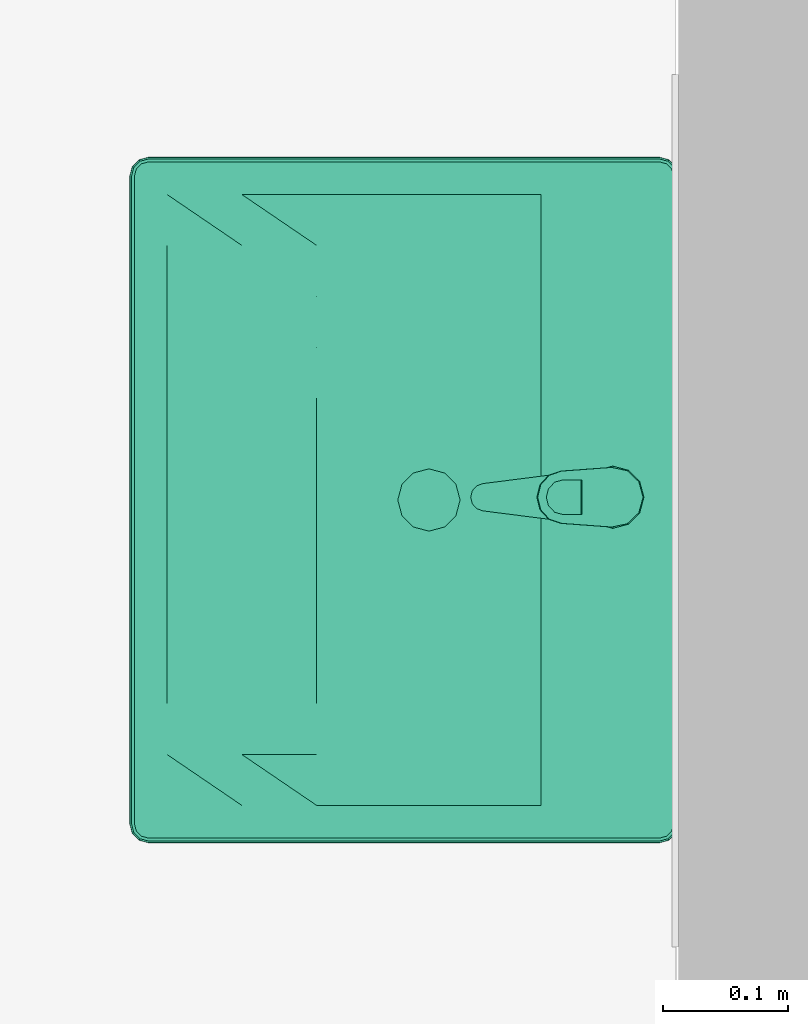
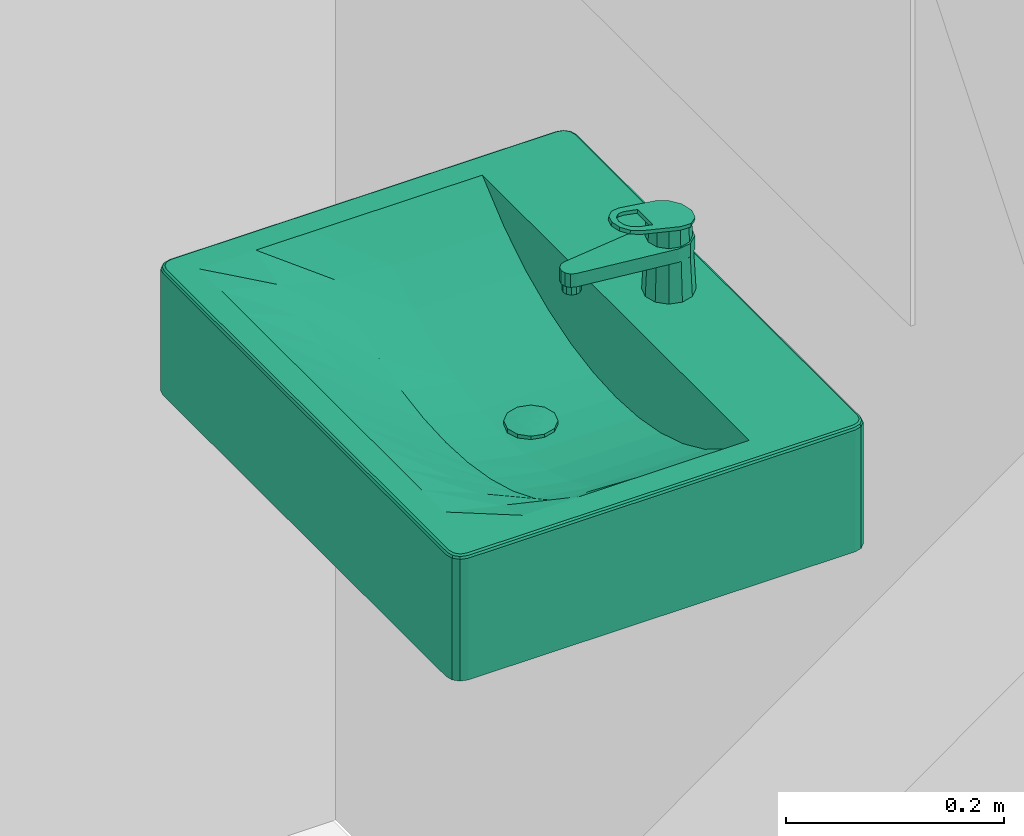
# One storey, part 78 of 127: 2 flow terminals.
"""IFC2X3 building model written with IfcOpenShell, lengths in millimetres."""

from ifc_helpers import new_model, entity, si_unit, converted_unit, derived_unit, money_unit, direction, frame, origin_with_axes, place, context, subcontext, project, spatial, open_shell, faceted_brep, surface_model, source, transform, mapped, type_object, element, save


model = new_model("IFC2X3")

# Units and contexts
model_context = context("Model", 3, precision=1e-05, world=origin_with_axes(), true_north=direction((0.0, 1.0)))
body_context = subcontext(model_context, "Body", "Model", "MODEL_VIEW")
ifc_project = project(units=[si_unit("LENGTHUNIT", "METRE", prefix="MILLI"), si_unit("AREAUNIT", "SQUARE_METRE"), si_unit("VOLUMEUNIT", "CUBIC_METRE"), converted_unit("PLANEANGLEUNIT", "DEGREE", entity("IfcPlaneAngleMeasure", 0.0174532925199), si_unit("PLANEANGLEUNIT", "RADIAN"), dimensions=[0, 0, 0, 0, 0, 0, 0]), si_unit("SOLIDANGLEUNIT", "STERADIAN"), money_unit("EUR"), converted_unit("TIMEUNIT", "Year", entity("IfcTimeMeasure", 31556926.0), si_unit("TIMEUNIT", "SECOND"), dimensions=[0, 0, 1, 0, 0, 0, 0]), si_unit("MASSUNIT", "GRAM", prefix="KILO"), si_unit("THERMODYNAMICTEMPERATUREUNIT", "DEGREE_CELSIUS"), si_unit("LUMINOUSINTENSITYUNIT", "LUMEN"), si_unit("ENERGYUNIT", "JOULE", prefix="MEGA"), derived_unit("THERMALCONDUCTANCEUNIT", [(si_unit("POWERUNIT", "WATT"), 1), (si_unit("LENGTHUNIT", "METRE"), -1), (si_unit("THERMODYNAMICTEMPERATUREUNIT", "KELVIN"), -1)]), derived_unit("SPECIFICHEATCAPACITYUNIT", [(si_unit("ENERGYUNIT", "JOULE"), 1), (si_unit("MASSUNIT", "GRAM", prefix="KILO"), -1), (si_unit("THERMODYNAMICTEMPERATUREUNIT", "KELVIN"), -1)]), derived_unit("MASSDENSITYUNIT", [(si_unit("MASSUNIT", "GRAM", prefix="KILO"), 1), (si_unit("VOLUMEUNIT", "CUBIC_METRE"), -1)])], contexts=[model_context])

# Site, building, storey
site_placement = place(None, origin_with_axes())
site = spatial("IfcSite", under=ifc_project, at=site_placement, Name="Site", CompositionType="ELEMENT")
building_placement = place(site_placement, origin_with_axes())
building = spatial("IfcBuilding", under=site, at=building_placement, Name="Building", CompositionType="ELEMENT")
storey_placement = place(building_placement, origin_with_axes())
storey = spatial("IfcBuildingStorey", under=building, at=storey_placement, Name="1 KORRUS", CompositionType="ELEMENT", Elevation=0.0)

# Flow terminals
sanitary_terminal_type_1 = type_object("IfcSanitaryTerminalType", Name="Basin 22", PredefinedType="NOTDEFINED")
shared_shape_1 = source(origin_with_axes(), body_context, "Body", "SurfaceModel", [
    faceted_brep([(260.0, -440.0, 860.0), (-260.0, -440.0, 860.0), (-267.5, -437.990381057, 860.0), (-272.990381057, -432.5, 860.0), (-275.0, -425.0, 860.0), (-275.0, -15.0, 860.0), (-272.990381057, -7.5, 860.0), (-267.5, -2.00961894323, 860.0), (-260.0, 0.0, 860.0), (260.0, 0.0, 860.0), (267.5, -2.00961894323, 860.0), (272.990381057, -7.5, 860.0), (275.0, -15.0, 860.0), (275.0, -425.0, 860.0), (272.990381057, -432.5, 860.0), (267.5, -437.990381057, 860.0), (-245.0, -410.0, 860.0), (245.0, -410.0, 860.0), (245.0, -110.0, 860.0), (-245.0, -110.0, 860.0), (259.999999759, -440.00000039, 995.0), (-259.999999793, -440.00000039, 995.0), (-267.500000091, -437.990381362, 995.0), (-272.990381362, -432.500000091, 995.0), (-275.00000039, -424.999999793, 995.0), (-275.00000039, -14.9999996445, 995.0), (-272.990381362, -7.50000027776, 995.0), (-267.500000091, -2.00961900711, 995.0), (-259.999999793, 2.02655670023e-08, 995.0), (259.999999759, 2.02655670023e-08, 995.0), (267.500000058, -2.00961900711, 995.0), (272.990381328, -7.50000027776, 995.0), (275.000000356, -14.9999996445, 995.0), (275.000000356, -424.999999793, 995.0), (272.990381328, -432.500000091, 995.0), (267.500000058, -437.990381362, 995.0), (-245.0, -410.0, 999.999999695), (245.0, -410.0, 999.999999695), (245.0, -110.0, 999.999999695), (-245.0, -110.0, 999.999999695), (259.977570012, -439.829629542, 996.294095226), (-259.977570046, -439.829629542, 996.294095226), (-267.411809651, -437.837631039, 996.294095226), (-272.837631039, -432.411809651, 996.294095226), (-274.829629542, -424.977570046, 996.294095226), (-274.829629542, -15.0224293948, 996.294095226), (-272.837631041, -7.58819072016, 996.294095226), (-267.411809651, -2.16236933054, 996.294095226), (-259.977570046, -0.170370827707, 996.294095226), (259.977570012, -0.170370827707, 996.294095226), (267.411809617, -2.16236933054, 996.294095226), (272.837631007, -7.58819072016, 996.294095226), (274.829629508, -15.0224293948, 996.294095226), (274.829629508, -424.977570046, 996.294095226), (272.837631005, -432.411809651, 996.294095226), (267.411809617, -437.837631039, 996.294095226), (-259.34173768, -4.99999712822, 999.999999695), (-264.911811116, -6.49249381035, 999.999999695), (-268.507506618, -10.0881893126, 999.999999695), (-270.000003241, -15.6582618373, 999.999999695), (-270.000003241, -424.34173768, 999.999999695), (-268.507506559, -429.911811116, 999.999999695), (-264.911811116, -433.507506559, 999.999999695), (-259.34173768, -435.000003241, 999.999999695), (259.341737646, -435.000003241, 999.999999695), (264.911811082, -433.507506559, 999.999999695), (268.507506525, -429.911811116, 999.999999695), (270.000003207, -424.34173768, 999.999999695), (270.000003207, -15.6582618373, 999.999999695), (268.507506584, -10.0881893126, 999.999999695), (264.911811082, -6.49249381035, 999.999999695), (259.341737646, -4.99999712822, 999.999999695), (259.807199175, -438.535534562, 998.535533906), (-259.807199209, -438.535534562, 998.535533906), (-266.741936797, -436.677377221, 998.535533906), (-271.677377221, -431.741936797, 998.535533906), (-273.535534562, -424.807199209, 998.535533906), (-273.535534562, -15.1928002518, 998.535533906), (-271.677377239, -8.2580635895, 998.535533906), (-266.741936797, -3.32262314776, 998.535533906), (-259.807199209, -1.46446580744, 998.535533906), (259.807199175, -1.46446580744, 998.535533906), (266.741936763, -3.32262314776, 998.535533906), (271.677377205, -8.2580635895, 998.535533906), (273.535534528, -15.1928002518, 998.535533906), (273.535534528, -424.807199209, 998.535533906), (271.677377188, -431.741936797, 998.535533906), (266.741936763, -436.677377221, 998.535533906), (-265.581682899, -5.33224184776, 999.829629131), (-259.512108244, -3.70590421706, 999.829629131), (-269.667758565, -9.41831751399, 999.829629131), (-271.294096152, -15.4878912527, 999.829629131), (-271.294096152, -424.512108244, 999.829629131), (-269.667758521, -430.581682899, 999.829629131), (-265.581682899, -434.667758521, 999.829629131), (-259.512108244, -436.294096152, 999.829629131), (259.51210821, -436.294096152, 999.829629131), (265.581682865, -434.667758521, 999.829629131), (269.667758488, -430.581682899, 999.829629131), (271.294096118, -424.512108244, 999.829629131), (271.294096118, -15.4878912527, 999.829629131), (269.667758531, -9.41831751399, 999.829629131), (265.581682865, -5.33224184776, 999.829629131), (259.51210821, -3.70590421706, 999.829629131)], [[[0, 1, 2, 3, 4, 5, 6, 7, 8, 9, 10, 11, 12, 13, 14, 15], [16, 17, 18, 19]], [[0, 20, 21, 1]], [[1, 21, 22, 2]], [[2, 22, 23, 3]], [[3, 23, 24, 4]], [[4, 24, 25, 5]], [[5, 25, 26, 6]], [[6, 26, 27, 7]], [[7, 27, 28, 8]], [[8, 28, 29, 9]], [[9, 29, 30, 10]], [[10, 30, 31, 11]], [[11, 31, 32, 12]], [[12, 32, 33, 13]], [[13, 33, 34, 14]], [[14, 34, 35, 15]], [[15, 35, 20, 0]], [[36, 37, 17, 16]], [[37, 38, 18, 17]], [[38, 39, 19, 18]], [[39, 36, 16, 19]], [[20, 40, 41, 21]], [[21, 41, 42, 22]], [[22, 42, 43, 23]], [[23, 43, 44, 24]], [[24, 44, 45, 25]], [[25, 45, 46, 26]], [[26, 46, 47, 27]], [[27, 47, 48, 28]], [[28, 48, 49, 29]], [[29, 49, 50, 30]], [[30, 50, 51, 31]], [[31, 51, 52, 32]], [[32, 52, 53, 33]], [[33, 53, 54, 34]], [[34, 54, 55, 35]], [[35, 55, 40, 20]], [[56, 57, 58, 59, 60, 61, 62, 63, 64, 65, 66, 67, 68, 69, 70, 71], [36, 39, 38, 37]], [[40, 72, 73, 41]], [[41, 73, 74, 42]], [[42, 74, 75, 43]], [[43, 75, 76, 44]], [[44, 76, 77, 45]], [[45, 77, 78, 46]], [[46, 78, 79, 47]], [[47, 79, 80, 48]], [[48, 80, 81, 49]], [[49, 81, 82, 50]], [[50, 82, 83, 51]], [[51, 83, 84, 52]], [[52, 84, 85, 53]], [[53, 85, 86, 54]], [[54, 86, 87, 55]], [[55, 87, 72, 40]], [[88, 57, 56, 89]], [[90, 58, 57, 88]], [[91, 59, 58, 90]], [[92, 60, 59, 91]], [[93, 61, 60, 92]], [[94, 62, 61, 93]], [[95, 63, 62, 94]], [[96, 64, 63, 95]], [[97, 65, 64, 96]], [[98, 66, 65, 97]], [[99, 67, 66, 98]], [[100, 68, 67, 99]], [[101, 69, 68, 100]], [[102, 70, 69, 101]], [[103, 71, 70, 102]], [[89, 56, 71, 103]], [[72, 96, 95, 73]], [[73, 95, 94, 74]], [[74, 94, 93, 75]], [[75, 93, 92, 76]], [[76, 92, 91, 77]], [[77, 91, 90, 78]], [[78, 90, 88, 79]], [[79, 88, 89, 80]], [[80, 89, 103, 81]], [[81, 103, 102, 82]], [[82, 102, 101, 83]], [[83, 101, 100, 84]], [[84, 100, 99, 85]], [[85, 99, 98, 86]], [[86, 98, 97, 87]], [[87, 97, 96, 72]]]),
    faceted_brep([(-245.0, -410.0, 860.0), (-245.0, -110.0, 860.0), (245.0, -110.0, 860.0), (245.0, -410.0, 860.0), (12.5, -221.641635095, 860.0), (21.6506350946, -212.491, 860.0), (25.0, -199.991, 860.0), (21.6506350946, -187.491, 860.0), (12.5, -178.340364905, 860.0), (0.0, -174.991, 860.0), (-12.5, -178.340364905, 860.0), (-21.6506350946, -187.491, 860.0), (-25.0, -199.991, 860.0), (-21.6506350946, -212.491, 860.0), (-12.5, -221.641635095, 860.0), (0.0, -224.991, 860.0), (-245.0, -290.0, 1000.0), (-245.0, -230.0, 1000.0), (-245.0, -170.0, 1000.0), (-245.0, -110.0, 1000.0), (-245.0, -410.0, 1000.0), (-245.0, -350.0, 1000.0), (122.5, -110.0, 922.129168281), (163.333333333, -110.0, 940.432026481), (204.166666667, -110.0, 965.689615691), (245.0, -110.0, 1000.0), (-204.166666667, -110.0, 965.689615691), (-163.333333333, -110.0, 940.432026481), (-122.5, -110.0, 922.129168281), (-81.6666666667, -110.0, 909.657569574), (-40.8333333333, -110.0, 902.389246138), (0.0, -110.0, 900.0), (40.8333333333, -110.0, 902.389246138), (81.6666666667, -110.0, 909.657569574), (245.0, -230.0, 1000.0), (245.0, -290.0, 1000.0), (245.0, -350.0, 1000.0), (245.0, -410.0, 1000.0), (245.0, -170.0, 1000.0), (-122.5, -410.0, 1000.0), (-163.333333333, -410.0, 1000.0), (-204.166666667, -410.0, 1000.0), (204.166666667, -410.0, 1000.0), (163.333333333, -410.0, 1000.0), (122.5, -410.0, 1000.0), (81.6666666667, -410.0, 1000.0), (40.8333333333, -410.0, 1000.0), (0.0, -410.0, 1000.0), (-40.8333333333, -410.0, 1000.0), (-81.6666666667, -410.0, 1000.0), (12.5, -221.641635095, 900.731401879), (21.6506350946, -212.491, 901.266825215), (25.0, -199.991, 901.462803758), (21.6506350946, -187.491, 901.266825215), (12.5, -178.340364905, 900.731401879), (0.0, -174.991, 900.0), (-12.5, -178.340364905, 900.731401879), (-21.6506350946, -187.491, 901.266825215), (-25.0, -199.991, 901.462803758), (-21.6506350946, -212.491, 901.266825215), (-12.5, -221.641635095, 900.731401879), (0.0, -224.991, 900.0), (-204.166666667, -230.0, 965.689615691), (-204.166666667, -170.0, 965.689615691), (-204.166666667, -350.0, 986.166287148), (-204.166666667, -290.0, 970.594758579), (163.333333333, -170.0, 940.432026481), (122.5, -170.0, 922.129168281), (204.166666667, -170.0, 965.689615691), (-163.333333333, -170.0, 940.432026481), (-122.5, -170.0, 922.129168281), (-81.6666666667, -170.0, 909.657569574), (-40.8333333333, -170.0, 902.389246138), (0.0, -170.0, 900.0), (40.8333333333, -170.0, 902.389246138), (81.6666666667, -170.0, 909.657569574), (204.166666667, -290.0, 970.594758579), (204.166666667, -350.0, 986.166287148), (204.166666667, -230.0, 965.689615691), (-122.5, -350.0, 966.539843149), (-163.333333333, -350.0, 975.056802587), (163.333333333, -350.0, 975.056802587), (122.5, -350.0, 966.539843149), (81.6666666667, -350.0, 960.520155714), (40.8333333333, -350.0, 956.933224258), (0.0, -350.0, 955.741663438), (-40.8333333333, -350.0, 956.933224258), (-81.6666666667, -350.0, 960.520155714), (0.0, -230.0, 900.0), (40.8333333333, -230.0, 902.389246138), (-40.8333333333, -230.0, 902.389246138), (-163.333333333, -230.0, 940.432026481), (163.333333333, -230.0, 940.432026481), (122.5, -230.0, 922.129168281), (-122.5, -230.0, 922.129168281), (-81.6666666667, -230.0, 909.657569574), (81.6666666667, -230.0, 909.657569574), (0.0, -290.0, 912.025576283), (-40.8333333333, -290.0, 914.19632473), (-163.333333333, -290.0, 948.375008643), (122.5, -290.0, 932.026603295), (163.333333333, -290.0, 948.375008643), (-122.5, -290.0, 932.026603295), (-81.6666666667, -290.0, 920.783680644), (40.8333333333, -290.0, 914.19632473), (81.6666666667, -290.0, 920.783680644)], [[[0, 1, 2, 3], [4, 5, 6, 7, 8, 9, 10, 11, 12, 13, 14, 15]], [[16, 17, 18, 19, 1, 0, 20, 21]], [[22, 23, 24, 25, 2, 1, 19, 26, 27, 28, 29, 30, 31, 32, 33]], [[34, 35, 36, 37, 3, 2, 25, 38]], [[39, 40, 41, 20, 0, 3, 37, 42, 43, 44, 45, 46, 47, 48, 49]], [[50, 51, 5, 4]], [[51, 52, 6, 5]], [[52, 53, 7, 6]], [[53, 54, 8, 7]], [[54, 55, 9, 8]], [[55, 56, 10, 9]], [[56, 57, 11, 10]], [[57, 58, 12, 11]], [[58, 59, 13, 12]], [[59, 60, 14, 13]], [[60, 61, 15, 14]], [[61, 50, 4, 15]], [[16, 62, 17]], [[62, 63, 18, 17]], [[63, 26, 19, 18]], [[20, 64, 21]], [[21, 65, 16]], [[66, 23, 22, 67]], [[68, 24, 23, 66]], [[38, 25, 24, 68]], [[69, 27, 26, 63]], [[70, 28, 27, 69]], [[71, 29, 28, 70]], [[72, 30, 29, 71]], [[73, 31, 30, 72]], [[74, 32, 31, 73]], [[75, 33, 32, 74]], [[67, 22, 33, 75]], [[76, 35, 34]], [[77, 36, 35]], [[42, 37, 36]], [[34, 38, 68, 78]], [[40, 39, 79]], [[41, 40, 80]], [[20, 41, 64]], [[43, 42, 77]], [[44, 43, 81]], [[45, 44, 82]], [[46, 45, 83]], [[47, 46, 84]], [[48, 47, 85]], [[49, 48, 86]], [[39, 49, 87]], [[54, 53, 52, 51, 50, 61, 88, 89, 74, 73, 55]], [[56, 55, 73, 72, 90, 88, 61, 60, 59, 58, 57]], [[16, 65, 62]], [[91, 69, 63, 62]], [[21, 64, 65]], [[92, 66, 67, 93]], [[78, 68, 66, 92]], [[94, 70, 69, 91]], [[95, 71, 70, 94]], [[90, 72, 71, 95]], [[96, 75, 74, 89]], [[93, 67, 75, 96]], [[77, 35, 76]], [[76, 34, 78]], [[42, 36, 77]], [[39, 87, 79]], [[40, 79, 80]], [[41, 80, 64]], [[43, 77, 81]], [[44, 81, 82]], [[45, 82, 83]], [[46, 83, 84]], [[47, 84, 85]], [[48, 85, 86]], [[49, 86, 87]], [[97, 89, 88]], [[98, 88, 90]], [[65, 91, 62]], [[64, 99, 65]], [[100, 92, 93]], [[101, 78, 92]], [[99, 94, 91]], [[102, 95, 94]], [[103, 90, 95]], [[104, 96, 89]], [[105, 93, 96]], [[81, 77, 76]], [[101, 76, 78]], [[79, 87, 103]], [[80, 79, 102]], [[64, 80, 99]], [[82, 81, 101]], [[83, 82, 100]], [[84, 83, 105]], [[85, 84, 104]], [[86, 85, 97]], [[87, 86, 98]], [[97, 104, 89]], [[98, 97, 88]], [[103, 98, 90]], [[65, 99, 91]], [[100, 101, 92]], [[105, 100, 93]], [[99, 102, 94]], [[102, 103, 95]], [[104, 105, 96]], [[81, 76, 101]], [[87, 98, 103]], [[79, 103, 102]], [[80, 102, 99]], [[82, 101, 100]], [[83, 100, 105]], [[84, 105, 104]], [[85, 104, 97]], [[86, 97, 98]]]),
    faceted_brep([(21.6506350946, -212.491, 900.0), (12.5, -221.641635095, 900.0), (0.0, -224.991, 900.0), (-12.5, -221.641635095, 900.0), (-21.6506350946, -212.491, 900.0), (-25.0, -199.991, 900.0), (-21.6506350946, -187.491, 900.0), (-12.5, -178.340364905, 900.0), (0.0, -174.991, 900.0), (12.5, -178.340364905, 900.0), (21.6506350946, -187.491, 900.0), (25.0, -199.991, 900.0), (21.6506350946, -212.491, 905.0), (12.5, -221.641635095, 905.0), (0.0, -224.991, 905.0), (-12.5, -221.641635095, 905.0), (-21.6506350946, -212.491, 905.0), (-25.0, -199.991, 905.0), (-21.6506350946, -187.491, 905.0), (-12.5, -178.340364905, 905.0), (0.0, -174.991, 905.0), (12.5, -178.340364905, 905.0), (21.6506350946, -187.491, 905.0), (25.0, -199.991, 905.0)], [[[0, 1, 2, 3, 4, 5, 6, 7, 8, 9, 10, 11]], [[1, 0, 12, 13]], [[2, 1, 13, 14]], [[3, 2, 14, 15]], [[4, 3, 15, 16]], [[5, 4, 16, 17]], [[6, 5, 17, 18]], [[7, 6, 18, 19]], [[8, 7, 19, 20]], [[9, 8, 20, 21]], [[10, 9, 21, 22]], [[11, 10, 22, 23]], [[0, 11, 23, 12]], [[12, 23, 22, 21, 20, 19, 18, 17, 16, 15, 14, 13]]]),
    surface_model("IfcShellBasedSurfaceModel", [(0.0, -199.991, 907.0), (0.0, -187.369094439, 906.49757372), (-6.31095278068, -189.06010914, 906.49757372), (6.31095278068, -189.06010914, 906.49757372), (0.0, -174.991, 905.0), (-12.5, -178.340364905, 905.0), (-10.9308908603, -193.680047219, 906.49757372), (10.9308908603, -193.680047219, 906.49757372), (12.5, -178.340364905, 905.0), (-21.6506350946, -187.491, 905.0), (-12.6219055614, -199.991, 906.49757372), (12.6219055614, -199.991, 906.49757372), (21.6506350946, -187.491, 905.0), (-25.0, -199.991, 905.0), (-10.9308908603, -206.301952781, 906.49757372), (10.9308908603, -206.301952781, 906.49757372), (25.0, -199.991, 905.0), (-21.6506350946, -212.491, 905.0), (-6.31095278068, -210.92189086, 906.49757372), (6.31095278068, -210.92189086, 906.49757372), (21.6506350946, -212.491, 905.0), (-12.5, -221.641635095, 905.0), (0.0, -212.612905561, 906.49757372), (12.5, -221.641635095, 905.0), (0.0, -224.991, 905.0)], [open_shell([[[0, 1, 2]], [[0, 3, 1]], [[2, 1, 4, 5]], [[0, 2, 6]], [[0, 7, 3]], [[1, 3, 8, 4]], [[6, 2, 5, 9]], [[0, 6, 10]], [[0, 11, 7]], [[3, 7, 12, 8]], [[10, 6, 9, 13]], [[0, 10, 14]], [[0, 15, 11]], [[7, 11, 16, 12]], [[14, 10, 13, 17]], [[0, 14, 18]], [[0, 19, 15]], [[11, 15, 20, 16]], [[18, 14, 17, 21]], [[0, 18, 22]], [[0, 22, 19]], [[15, 19, 23, 20]], [[22, 18, 21, 24]], [[19, 22, 24, 23]]])]),
])
flow_terminal_1_placement = place(storey_placement, frame((11416.6560795, 62478.7352924, 40.0), z_axis=(0.0, 0.0, 1.0), x_axis=(0.0, -1.0, 0.0)))
element("IfcFlowTerminal", 1, at=flow_terminal_1_placement, inside=storey, type_object=sanitary_terminal_type_1, Name="Valamu", context=body_context, shape_type="MappedRepresentation", body=[
    mapped(shared_shape_1, transform((0.0, 0.0, 0.0))),
])
sanitary_terminal_type_2 = type_object("IfcSanitaryTerminalType", Name="Tap 22", PredefinedType="NOTDEFINED")
shared_shape_2 = source(origin_with_axes(), body_context, "Body", "Brep", [
    faceted_brep([(12.5, 21.6506350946, 1000.0), (0.0, 25.0, 1000.0), (0.0, 21.2019230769, 1075.96153846), (10.5873227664, 18.3377809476, 1076.50708934), (21.6506350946, 12.5, 1000.0), (25.0, 0.0, 1000.0), (21.6506350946, -12.5, 1000.0), (12.5, -21.6506350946, 1000.0), (0.0, -25.0, 1000.0), (-12.5, -21.6506350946, 1000.0), (-21.6506350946, -12.5, 1000.0), (-25.0, 0.0, 1000.0), (-21.6506350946, 12.5, 1000.0), (-12.5, 21.6506350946, 1000.0), (-10.5873227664, 18.3377809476, 1076.50708934), (-18.2735503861, 10.5502392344, 1077.99043062), (-21.0, 0.0, 1080.0), (-18.1003413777, -10.4502369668, 1081.99052133), (-10.4141059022, -18.037760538, 1083.43576391), (0.0, -20.8018867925, 1083.96226415), (10.4141059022, -18.037760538, 1083.43576391), (18.1003413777, -10.4502369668, 1081.99052133), (21.0, 0.0, 1080.0), (18.2735503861, 10.5502392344, 1077.99043062)], [[[0, 1, 2, 3]], [[0, 4, 5, 6, 7, 8, 9, 10, 11, 12, 13, 1]], [[1, 13, 14, 2]], [[3, 2, 14, 15, 16, 17, 18, 19, 20, 21, 22, 23]], [[4, 0, 3, 23]], [[5, 4, 23, 22]], [[6, 5, 22, 21]], [[7, 6, 21, 20]], [[8, 7, 20, 19]], [[9, 8, 19, 18]], [[10, 9, 18, 17]], [[11, 10, 17, 16]], [[12, 11, 16, 15]], [[13, 12, 15, 14]]]),
    faceted_brep([(9.0, -103.0, 1035.0), (7.79422863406, -98.5, 1035.0), (7.79422863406, -98.5, 1045.0), (9.0, -103.0, 1045.0), (7.79422863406, -107.5, 1035.0), (4.5, -110.794228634, 1035.0), (0.0, -112.0, 1035.0), (-4.5, -110.794228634, 1035.0), (-7.79422863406, -107.5, 1035.0), (-9.0, -103.0, 1035.0), (-7.79422863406, -98.5, 1035.0), (-4.5, -95.2057713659, 1035.0), (0.0, -94.0, 1035.0), (4.5, -95.2057713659, 1035.0), (4.5, -95.2057713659, 1045.0), (0.0, -94.0, 1045.0), (-4.5, -95.2057713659, 1045.0), (-7.79422863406, -98.5, 1045.0), (-9.0, -103.0, 1045.0), (-7.79422863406, -107.5, 1045.0), (-4.5, -110.794228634, 1045.0), (0.0, -112.0, 1045.0), (4.5, -110.794228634, 1045.0), (7.79422863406, -107.5, 1045.0)], [[[0, 1, 2, 3]], [[0, 4, 5, 6, 7, 8, 9, 10, 11, 12, 13, 1]], [[1, 13, 14, 2]], [[3, 2, 14, 15, 16, 17, 18, 19, 20, 21, 22, 23]], [[4, 0, 3, 23]], [[5, 4, 23, 22]], [[6, 5, 22, 21]], [[7, 6, 21, 20]], [[8, 7, 20, 19]], [[9, 8, 19, 18]], [[10, 9, 18, 17]], [[11, 10, 17, 16]], [[12, 11, 16, 15]], [[13, 12, 15, 14]]]),
    faceted_brep([(-12.8717176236, 20.2563038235, 1060.0), (-21.727805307, 10.1932053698, 1060.0), (-23.8054, -3.0499, 1060.0), (-10.911990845, -104.388371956, 1060.0), (-9.02887546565, -109.283194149, 1060.0), (-5.09332449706, -112.749726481, 1060.0), (3.62679860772e-05, -113.99996004, 1060.0), (5.09338878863, -112.749692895, 1060.0), (9.02891689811, -109.283134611, 1060.0), (10.912, -104.3883, 1060.0), (23.8053997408, -3.04990202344, 1060.0), (21.7278061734, 10.193203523, 1060.0), (12.8717193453, 20.2563027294, 1060.0), (1.01998896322e-06, 23.999978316, 1060.0), (11.0, 19.0525588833, 1060.0), (19.0525588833, 11.0, 1060.0), (22.0, 0.0, 1060.0), (19.0525588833, -11.0, 1060.0), (11.0, -19.0525588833, 1060.0), (0.0, -22.0, 1060.0), (-11.0, -19.0525588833, 1060.0), (-19.0525588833, -11.0, 1060.0), (-22.0, 0.0, 1060.0), (-19.0525588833, 11.0, 1060.0), (-11.0, 19.0525588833, 1060.0), (0.0, 22.0, 1060.0), (-21.727805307, 10.1932053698, 1045.0), (-12.8717176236, 20.2563038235, 1045.0), (-23.8054, -3.0499, 1045.0), (-10.911990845, -104.388371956, 1045.0), (-9.02887546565, -109.283194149, 1045.0), (-5.09332449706, -112.749726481, 1045.0), (3.62679860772e-05, -113.99996004, 1045.0), (5.09338878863, -112.749692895, 1045.0), (9.02891689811, -109.283134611, 1045.0), (10.912, -104.3883, 1045.0), (23.8053997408, -3.04990202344, 1045.0), (21.7278061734, 10.193203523, 1045.0), (12.8717193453, 20.2563027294, 1045.0), (1.01998896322e-06, 23.999978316, 1045.0), (11.375, 19.7020779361, 1045.0), (19.7020779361, 11.375, 1045.0), (22.75, 0.0, 1045.0), (19.7020779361, -11.375, 1045.0), (11.375, -19.7020779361, 1045.0), (0.0, -22.75, 1045.0), (-11.375, -19.7020779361, 1045.0), (-19.7020779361, -11.375, 1045.0), (-22.75, 0.0, 1045.0), (-19.7020779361, 11.375, 1045.0), (-11.375, 19.7020779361, 1045.0), (0.0, 22.75, 1045.0)], [[[0, 1, 2, 3, 4, 5, 6, 7, 8, 9, 10, 11, 12, 13], [14, 15, 16, 17, 18, 19, 20, 21, 22, 23, 24, 25]], [[26, 1, 0, 27]], [[28, 2, 1, 26]], [[29, 3, 2, 28]], [[30, 4, 3, 29]], [[31, 5, 4, 30]], [[32, 6, 5, 31]], [[33, 7, 6, 32]], [[34, 8, 7, 33]], [[35, 9, 8, 34]], [[36, 10, 9, 35]], [[37, 11, 10, 36]], [[38, 12, 11, 37]], [[39, 13, 12, 38]], [[27, 0, 13, 39]], [[40, 41, 15, 14]], [[41, 42, 16, 15]], [[42, 43, 17, 16]], [[43, 44, 18, 17]], [[44, 45, 19, 18]], [[20, 19, 45, 46]], [[21, 20, 46, 47]], [[22, 21, 47, 48]], [[23, 22, 48, 49]], [[24, 23, 49, 50]], [[50, 51, 25, 24]], [[51, 40, 14, 25]], [[32, 31, 30, 29, 28, 26, 27, 39, 38, 37, 36, 35, 34, 33], [44, 43, 42, 41, 40, 51, 50, 49, 48, 47, 46, 45]]]),
    faceted_brep([(23.893, -1.69256934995, 1080.32239416), (21.2964214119, 10.774718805, 1077.94767261), (21.2964214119, 11.5231672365, 1081.87702687), (23.893, -0.944120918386, 1084.25174843), (20.9459364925, -41.8367022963, 1087.96889568), (17.6631391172, -51.5143665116, 1089.81226029), (10.0614352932, -58.4637460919, 1091.13595164), (-0.000442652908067, -60.9856119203, 1091.61630703), (-10.0622123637, -58.4633294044, 1091.13587227), (-17.6636179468, -51.5136350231, 1089.81212096), (-20.946, -41.8358348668, 1087.96873045), (-23.893020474, -1.69229042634, 1080.32234103), (-21.2962910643, 10.7749674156, 1077.94762525), (-12.4716815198, 20.0911974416, 1076.17310525), (0.000142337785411, 23.5319645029, 1075.51772105), (12.4719245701, 20.0910518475, 1076.17313298), (14.0, -25.540802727, 1084.86491481), (-14.0, -25.540802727, 1084.86491481), (-14.0, -40.3564329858, 1087.68693962), (-12.124355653, -47.2328029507, 1088.99672437), (-7.0, -52.2666551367, 1089.95555336), (0.0, -54.1091729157, 1090.30650913), (7.0, -52.2666551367, 1089.95555336), (12.124355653, -47.2328029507, 1088.99672437), (14.0, -40.3564329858, 1087.68693962), (12.4719245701, 20.8395002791, 1080.10248725), (0.000142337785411, 24.2804129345, 1079.44707531), (-12.4716815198, 20.8396458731, 1080.10245951), (-21.2962910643, 11.5234158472, 1081.87697952), (-23.893020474, -0.943841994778, 1084.2516953), (-20.946, -41.0873864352, 1091.89808472), (-17.6636179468, -50.7651865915, 1093.74147522), (-10.0622123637, -57.7148809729, 1095.06522653), (-0.000442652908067, -60.2371634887, 1095.5456613), (10.0614352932, -57.7152976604, 1095.0653059), (17.6631391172, -50.7659180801, 1093.74161455), (20.9459364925, -41.0882538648, 1091.89824994), (14.0, -24.7923542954, 1088.79426907), (14.0, -39.6079845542, 1091.61629388), (12.124355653, -46.4843545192, 1092.92607864), (7.0, -51.5182067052, 1093.88490763), (0.0, -53.3607244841, 1094.23586339), (-7.0, -51.5182067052, 1093.88490763), (-12.124355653, -46.4843545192, 1092.92607864), (-14.0, -39.6079845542, 1091.61629388), (-14.0, -24.7923542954, 1088.79426907)], [[[0, 1, 2, 3]], [[0, 4, 5, 6, 7, 8, 9, 10, 11, 12, 13, 14, 15, 1], [16, 17, 18, 19, 20, 21, 22, 23, 24]], [[1, 15, 25, 2]], [[3, 2, 25, 26, 27, 28, 29, 30, 31, 32, 33, 34, 35, 36], [37, 38, 39, 40, 41, 42, 43, 44, 45]], [[4, 0, 3, 36]], [[5, 4, 36, 35]], [[6, 5, 35, 34]], [[7, 6, 34, 33]], [[8, 7, 33, 32]], [[9, 8, 32, 31]], [[10, 9, 31, 30]], [[11, 10, 30, 29]], [[12, 11, 29, 28]], [[13, 12, 28, 27]], [[14, 13, 27, 26]], [[15, 14, 26, 25]], [[17, 16, 37, 45]], [[18, 17, 45, 44]], [[19, 18, 44, 43]], [[20, 19, 43, 42]], [[21, 20, 42, 41]], [[22, 21, 41, 40]], [[23, 22, 40, 39]], [[24, 23, 39, 38]], [[16, 24, 38, 37]]]),
])
flow_terminal_2_placement = place(storey_placement, frame((11364.1226856, 62480.951487, 40.0), z_axis=(0.0, 0.0, 1.0), x_axis=(0.0, -1.0, 0.0)))
element("IfcFlowTerminal", 2, at=flow_terminal_2_placement, inside=storey, type_object=sanitary_terminal_type_2, Name="Valamu", context=body_context, shape_type="MappedRepresentation", body=[
    mapped(shared_shape_2, transform((0.0, 0.0, 0.0))),
])

save(model, "model.ifc")
